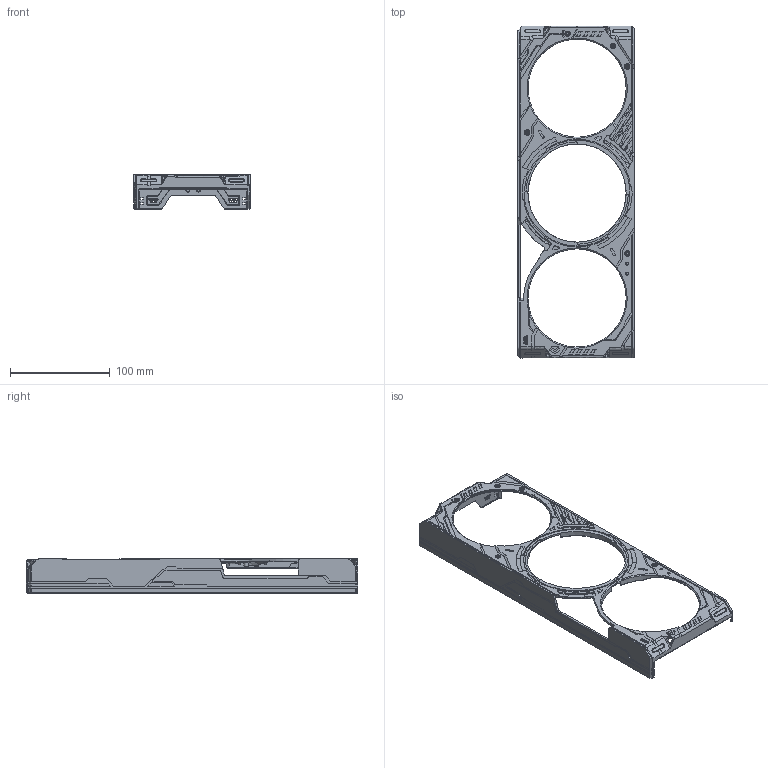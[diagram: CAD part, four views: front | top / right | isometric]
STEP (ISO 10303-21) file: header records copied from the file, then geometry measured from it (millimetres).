
FILE_DESCRIPTION((''),'2;1');
FILE_NAME('PRT0013','2025-02-18T11:00:33',('Kate'),(''),'CREO PARAMETRIC BY PTC INC, 2021304','CREO PARAMETRIC BY PTC INC, 2021304','');
FILE_SCHEMA(('AUTOMOTIVE_DESIGN { 1 0 10303 214 1 1 1 1 }'));
Products named in the file (1): PRT0013
Bounding box: 116.2 x 332.2 x 34.7 mm (x, y, z)
Volume: 60673.9 mm3; surface area: 69113.6 mm2
Topology: 1 solids, 1 shells, 1304 faces, 3804 edges, 2534 vertices
Faces by surface type: bspline 1304
Entity records: 66976 total; most frequent: CARTESIAN_POINT 23542, ORIENTED_EDGE 7600, DIRECTION 4305, PRESENTATION_STYLE_ASSIGNMENT 3888, STYLED_ITEM 3801, CURVE_STYLE 3800, EDGE_CURVE 3800, VERTEX_POINT 2534
